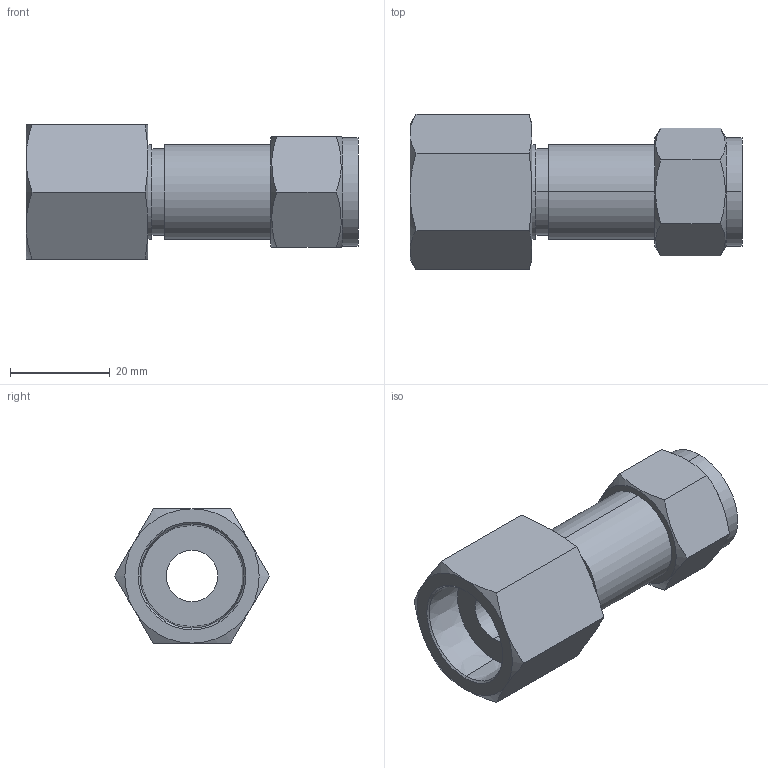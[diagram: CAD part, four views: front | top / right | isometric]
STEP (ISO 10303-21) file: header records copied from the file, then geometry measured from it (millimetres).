
FILE_DESCRIPTION (( 'STEP AP203' ), '1' );
FILE_NAME ('DSS08-08 SS.STEP', '2009-09-08T09:15:43', ( ' ' ), ( '' ), 'SwSTEP 2.0', 'SolidWorks 2008', '' );
FILE_SCHEMA (( 'CONFIG_CONTROL_DESIGN' ));
Length unit declared in the file: millimetre
Products named in the file (1): DSS08-08 SS
Bounding box: 66.7 x 31.17 x 26.99 mm (x, y, z)
Volume: 20939.8 mm3; surface area: 9024 mm2
Topology: 1 solids, 1 shells, 52 faces, 116 edges, 72 vertices
Faces by surface type: cone 20, plane 20, cylinder 12
Entity records: 1709 total; most frequent: CARTESIAN_POINT 513, ORIENTED_EDGE 232, DIRECTION 226, EDGE_CURVE 116, AXIS2_PLACEMENT_3D 97, VERTEX_POINT 72, EDGE_LOOP 60, ADVANCED_FACE 52
